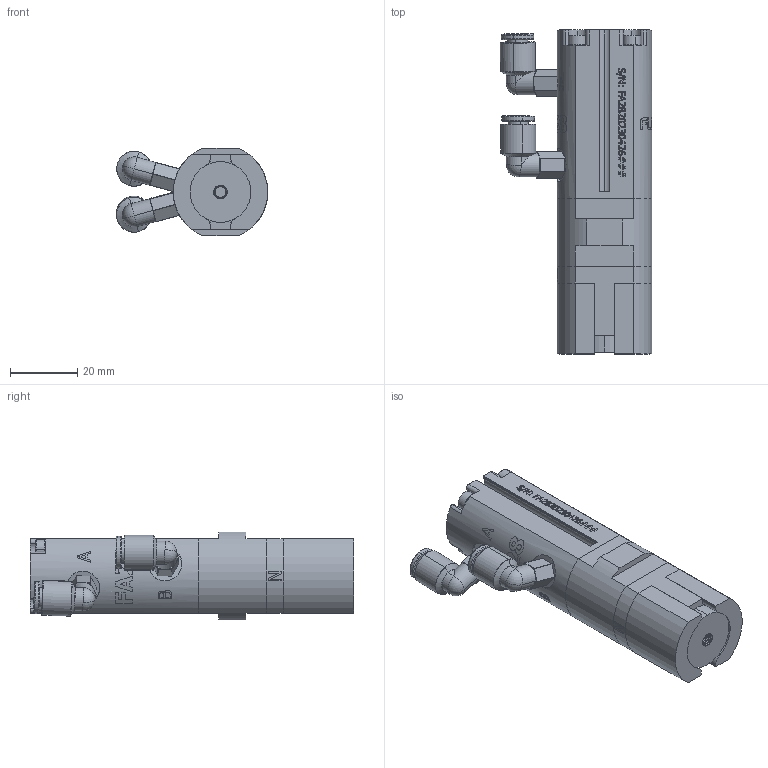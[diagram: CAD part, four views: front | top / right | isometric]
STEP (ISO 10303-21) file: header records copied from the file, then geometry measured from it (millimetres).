
FILE_DESCRIPTION (( 'STEP AP214' ), '1' );
FILE_NAME ('9970118_FA28-P-0 (FOR SHARE).STEP', '2023-10-06T08:04:21', ( '' ), ( '' ), 'SwSTEP 2.0', 'SolidWorks 2021', '' );
FILE_SCHEMA (( 'AUTOMOTIVE_DESIGN' ));
Length unit declared in the file: millimetre
Products named in the file (13): 160032_2.5X20__SUS304_默认_; 9970118_FA28-P-0 (FOR SHARE); 4060033_FA28 std pin pole kit_默认_; 120050_FA28 std  pin pole; 110031_FA28 actuator top(FOR SHARE); 150048_M3X75_SHCS_304(FOR SHARE)_91292A316; 120040_FA28 shunt(FOR SHARE); 160029_2.5X8__SUS304_默认_; 120051 - FA28 PIN insert; 9070005 - FA28 (FOR SHARE); 110030_FA28 base housing(FOR SHARE); 160030_2.5X12__SUS304_默认_; 180027_ M5-6mm_plug-in airport
Assembly tree (20 placements, depth 3):
  9970118_FA28-P-0 (FOR SHARE)
    9070005 - FA28 (FOR SHARE)
      110031_FA28 actuator top(FOR SHARE)
      110030_FA28 base housing(FOR SHARE)
      120040_FA28 shunt(FOR SHARE)
      150048_M3X75_SHCS_304(FOR SHARE)_91292A316  x4
      160029_2.5X8__SUS304_默认_  x2
      160030_2.5X12__SUS304_默认_  x2
    4060033_FA28 std pin pole kit_默认_
      120050_FA28 std  pin pole  x2
      120051 - FA28 PIN insert
      160032_2.5X20__SUS304_默认_  x2
    180027_ M5-6mm_plug-in airport  x2
Bounding box: 44.9 x 96 x 26 mm (x, y, z)
Volume: 49771.2 mm3; surface area: 26116.6 mm2
Topology: 16 solids, 22 shells, 656 faces, 1964 edges, 1367 vertices
Faces by surface type: cylinder 290, plane 162, cone 143, sphere 28, torus 26, bspline 7
Entity records: 23811 total; most frequent: CARTESIAN_POINT 9454, ORIENTED_EDGE 2812, DIRECTION 2375, EDGE_CURVE 1410, VERTEX_POINT 1084, AXIS2_PLACEMENT_3D 883, LINE 609, VECTOR 609
